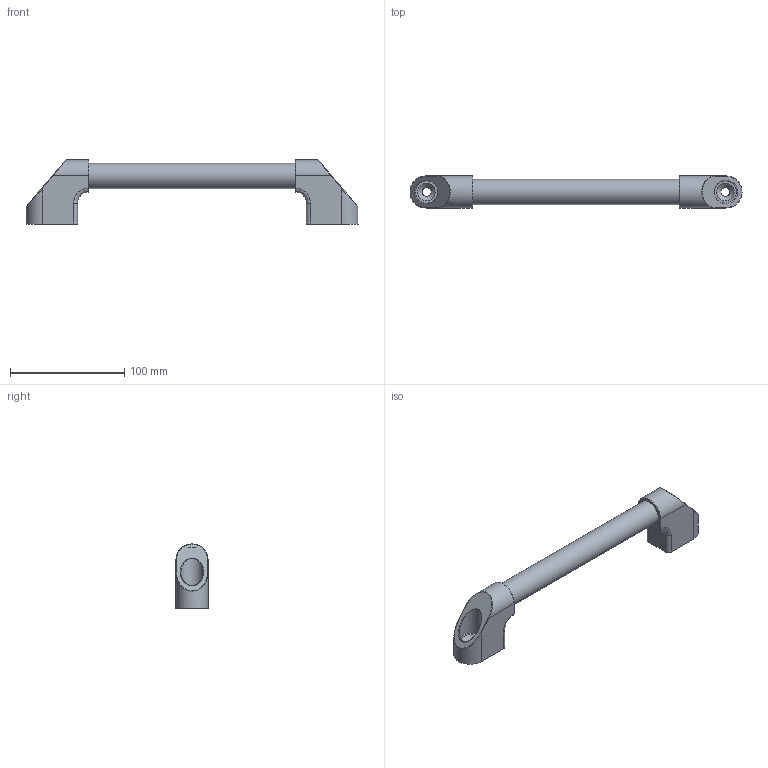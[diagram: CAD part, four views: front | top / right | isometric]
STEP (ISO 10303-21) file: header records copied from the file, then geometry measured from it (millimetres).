
FILE_DESCRIPTION(/* description */ (''),/* implementation_level */ '2;1');
FILE_NAME(/* name */ '\\NAS\db20\A-AL22-261\DR_A-AL22-261.stp',/* time_stamp */ '2017-11-09T16:54:08+09:00',/* author */ ('user'),/* organization */ (''),/* preprocessor_version */ 'ST-DEVELOPER v15.6',/* originating_system */ 'Autodesk Inventor 2015',/* authorisation */ '');
FILE_SCHEMA (('AUTOMOTIVE_DESIGN { 1 0 10303 214 3 1 1 }'));
Length unit declared in the file: millimetre
Products named in the file (3): DR_A-AL22-BR; DR_A-AL22-PI; DR_A-AL22-261
Bounding box: 290 x 28 x 56 mm (x, y, z)
Volume: 96685.5 mm3; surface area: 51119.2 mm2
Topology: 3 solids, 3 shells, 70 faces, 152 edges, 92 vertices
Faces by surface type: plane 24, cylinder 22, bspline 14, cone 6, torus 4
Full cylindrical faces by diameter (mm): 8 x2, 19.5 x2, 20 x1, 22 x3
Entity records: 1320 total; most frequent: CARTESIAN_POINT 473, DIRECTION 168, ORIENTED_EDGE 142, EDGE_CURVE 71, AXIS2_PLACEMENT_3D 69, EDGE_LOOP 50, VERTEX_POINT 47, FACE_OUTER_BOUND 37
